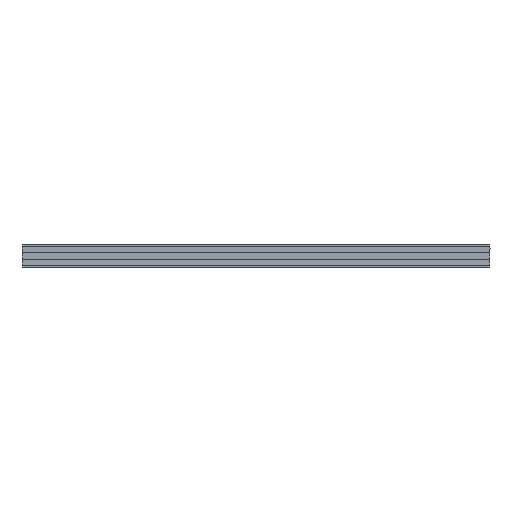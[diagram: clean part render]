
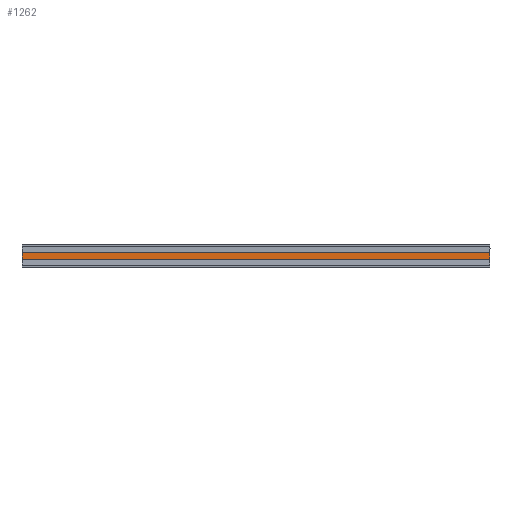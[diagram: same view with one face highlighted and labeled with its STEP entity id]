
A CAD part, top view. The second image highlights one B-rep face of the part: STEP entity #1262.
In plain terms, the highlighted planar face has unit normal (0, 0, 1).
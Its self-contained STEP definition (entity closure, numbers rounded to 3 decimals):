
#13 = ORIENTED_EDGE ( 'NONE', *, *, #1086, .T. ) ;
#185 = PLANE ( 'NONE',  #2107 ) ;
#330 = ORIENTED_EDGE ( 'NONE', *, *, #2141, .T. ) ;
#417 = LINE ( 'NONE', #2651, #3106 ) ;
#442 = DIRECTION ( 'NONE',  ( 1., 0., 0. ) ) ;
#448 = VECTOR ( 'NONE', #542, 1000. ) ;
#469 = CARTESIAN_POINT ( 'NONE',  ( 2000., -14.568, 14.7 ) ) ;
#542 = DIRECTION ( 'NONE',  ( 0., 1., 0. ) ) ;
#554 = LINE ( 'NONE', #2179, #3185 ) ;
#652 = VERTEX_POINT ( 'NONE', #1277 ) ;
#710 = LINE ( 'NONE', #1444, #2732 ) ;
#1086 = EDGE_CURVE ( 'NONE', #3058, #652, #1101, .T. ) ;
#1101 = LINE ( 'NONE', #3070, #448 ) ;
#1233 = EDGE_CURVE ( 'NONE', #1296, #3058, #554, .T. ) ;
#1262 = ADVANCED_FACE ( 'NONE', ( #2491 ), #185, .T. ) ;
#1277 = CARTESIAN_POINT ( 'NONE',  ( 2000., 14.568, 14.7 ) ) ;
#1296 = VERTEX_POINT ( 'NONE', #2187 ) ;
#1327 = EDGE_CURVE ( 'NONE', #652, #1359, #710, .T. ) ;
#1359 = VERTEX_POINT ( 'NONE', #1967 ) ;
#1427 = DIRECTION ( 'NONE',  ( 1., 0., 0. ) ) ;
#1436 = CARTESIAN_POINT ( 'NONE',  ( 0., 15.717, 14.7 ) ) ;
#1444 = CARTESIAN_POINT ( 'NONE',  ( 0., 14.568, 14.7 ) ) ;
#1729 = ORIENTED_EDGE ( 'NONE', *, *, #1233, .T. ) ;
#1948 = DIRECTION ( 'NONE',  ( 0., 0., 1. ) ) ;
#1967 = CARTESIAN_POINT ( 'NONE',  ( 0., 14.568, 14.7 ) ) ;
#1994 = ORIENTED_EDGE ( 'NONE', *, *, #1327, .T. ) ;
#2107 = AXIS2_PLACEMENT_3D ( 'NONE', #1436, #1948, #442 ) ;
#2141 = EDGE_CURVE ( 'NONE', #1359, #1296, #417, .T. ) ;
#2179 = CARTESIAN_POINT ( 'NONE',  ( 0., -14.568, 14.7 ) ) ;
#2187 = CARTESIAN_POINT ( 'NONE',  ( 0., -14.568, 14.7 ) ) ;
#2399 = DIRECTION ( 'NONE',  ( 0., -1., 0. ) ) ;
#2491 = FACE_OUTER_BOUND ( 'NONE', #2746, .T. ) ;
#2651 = CARTESIAN_POINT ( 'NONE',  ( 0., 15.717, 14.7 ) ) ;
#2732 = VECTOR ( 'NONE', #2967, 1000. ) ;
#2746 = EDGE_LOOP ( 'NONE', ( #13, #1994, #330, #1729 ) ) ;
#2967 = DIRECTION ( 'NONE',  ( -1., 0., 0. ) ) ;
#3058 = VERTEX_POINT ( 'NONE', #469 ) ;
#3070 = CARTESIAN_POINT ( 'NONE',  ( 2000., 15.717, 14.7 ) ) ;
#3106 = VECTOR ( 'NONE', #2399, 1000. ) ;
#3185 = VECTOR ( 'NONE', #1427, 1000. ) ;
